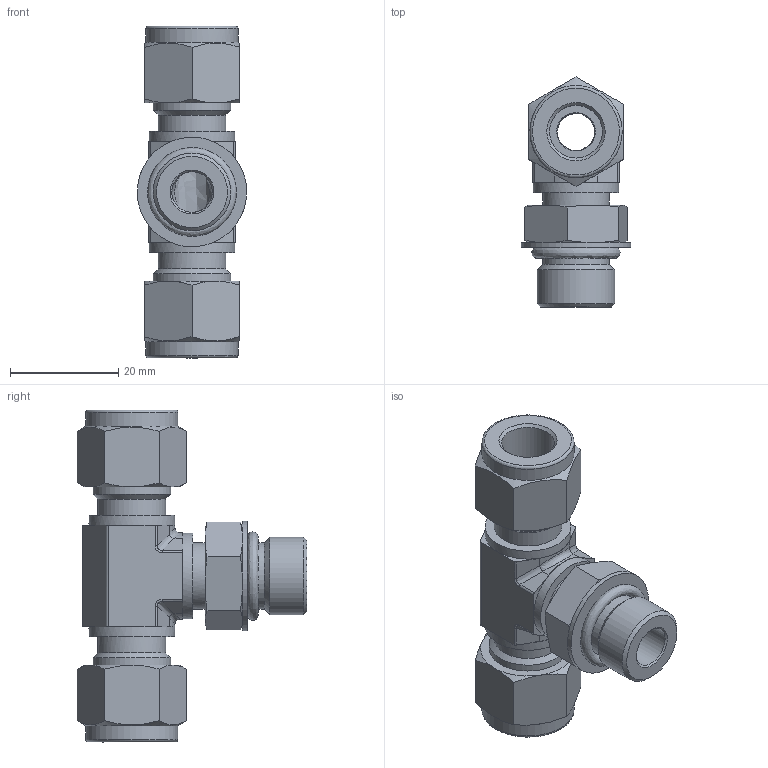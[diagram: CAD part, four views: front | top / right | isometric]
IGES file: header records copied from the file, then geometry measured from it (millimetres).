
Global section: file name: SPMBT-6-6U; native system: Autodesk Inventor 2016; preprocessor: unknown; author: DESIGNPC2; date: 20160312.153040; units: millimetre
Bounding box: 20.18 x 42.4 x 61.23 mm (x, y, z)
Volume: 13682.3 mm3; surface area: 9256.6 mm2
Topology: 4 solids, 4 shells, 147 faces, 360 edges, 233 vertices
Faces by surface type: bspline 147
